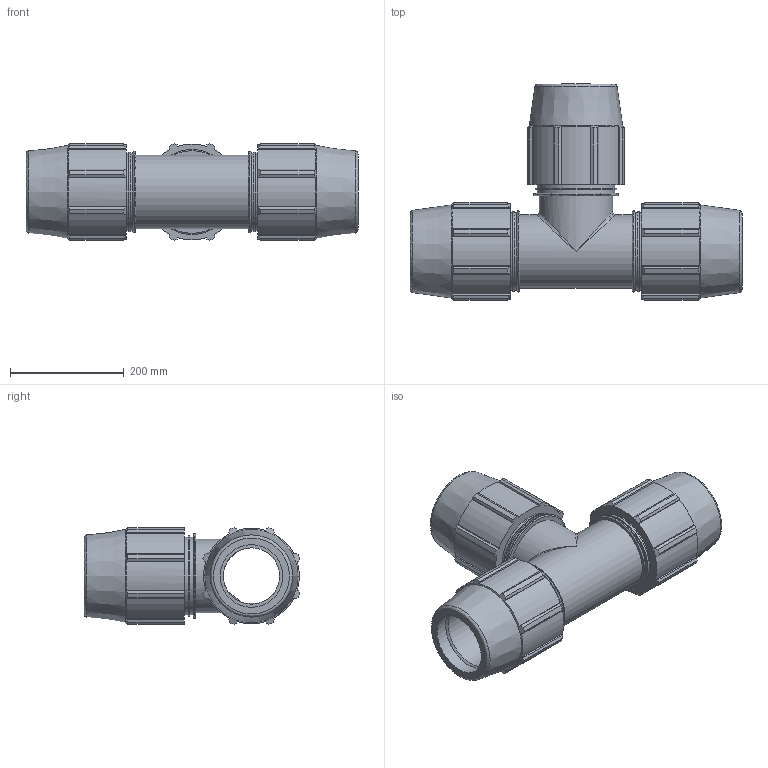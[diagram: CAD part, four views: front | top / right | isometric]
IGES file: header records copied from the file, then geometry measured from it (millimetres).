
Global section: file name: 870400110_180400110.ipt; native system: Autodesk Inventor 2015; preprocessor: unknown; author: KIM; date: 20170608.042441; units: millimetre
Bounding box: 583 x 379.15 x 170.31 mm (x, y, z)
Volume: 7534423.5 mm3; surface area: 749081.6 mm2
Topology: 1 solids, 1 shells, 225 faces, 624 edges, 418 vertices
Faces by surface type: plane 120, cylinder 61, cone 22, revolution 20, bspline 2
Full cylindrical faces by diameter (mm): 128.963 x2, 135.75 x6, 139.144 x2, 142.537 x3
